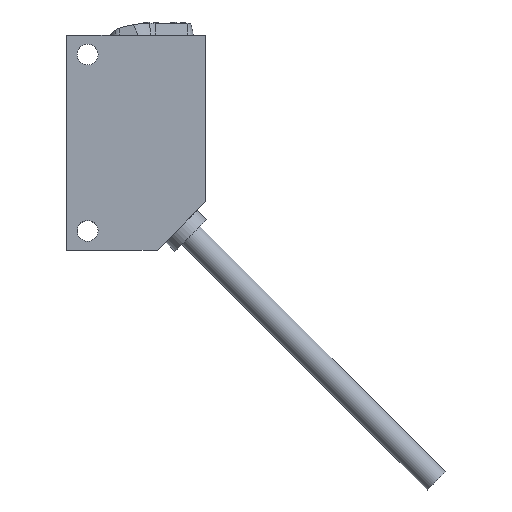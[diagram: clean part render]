
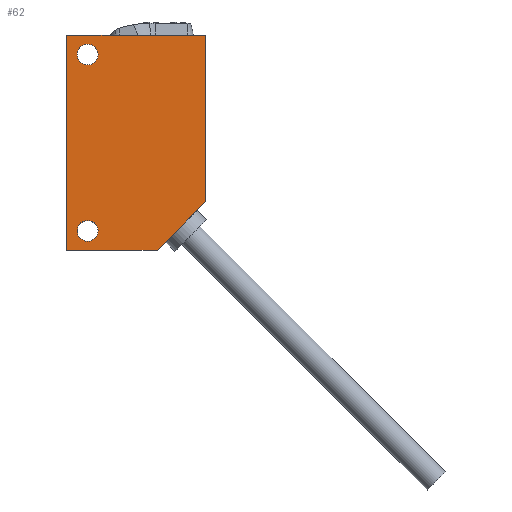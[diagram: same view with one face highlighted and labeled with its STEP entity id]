
A CAD part, top view. The second image highlights one B-rep face of the part: STEP entity #62.
In plain terms, the highlighted planar face has unit normal (0, 0, 1).
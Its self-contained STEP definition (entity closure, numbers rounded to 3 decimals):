
#41 = ORIENTED_EDGE ( 'NONE', *, *, #42, .F. ) ;
#42 = EDGE_CURVE ( 'NONE', #479, #619, #802, .T. ) ;
#54 = EDGE_LOOP ( 'NONE', ( #130, #142 ) ) ;
#62 = ADVANCED_FACE ( 'NONE', ( #828, #827, #826 ), #825, .T. ) ;
#63 = EDGE_CURVE ( 'NONE', #553, #550, #923, .T. ) ;
#71 = EDGE_CURVE ( 'NONE', #539, #467, #872, .T. ) ;
#102 = ORIENTED_EDGE ( 'NONE', *, *, #644, .T. ) ;
#103 = ORIENTED_EDGE ( 'NONE', *, *, #495, .T. ) ;
#106 = ORIENTED_EDGE ( 'NONE', *, *, #478, .F. ) ;
#107 = EDGE_LOOP ( 'NONE', ( #108, #110, #111, #102, #103 ) ) ;
#108 = ORIENTED_EDGE ( 'NONE', *, *, #71, .T. ) ;
#110 = ORIENTED_EDGE ( 'NONE', *, *, #540, .T. ) ;
#111 = ORIENTED_EDGE ( 'NONE', *, *, #129, .T. ) ;
#129 = EDGE_CURVE ( 'NONE', #557, #451, #1090, .T. ) ;
#130 = ORIENTED_EDGE ( 'NONE', *, *, #63, .F. ) ;
#142 = ORIENTED_EDGE ( 'NONE', *, *, #552, .F. ) ;
#143 = EDGE_LOOP ( 'NONE', ( #41, #106 ) ) ;
#451 = VERTEX_POINT ( 'NONE', #1321 ) ;
#467 = VERTEX_POINT ( 'NONE', #1339 ) ;
#478 = EDGE_CURVE ( 'NONE', #619, #479, #1443, .T. ) ;
#479 = VERTEX_POINT ( 'NONE', #1438 ) ;
#495 = EDGE_CURVE ( 'NONE', #576, #539, #1596, .T. ) ;
#539 = VERTEX_POINT ( 'NONE', #1630 ) ;
#540 = EDGE_CURVE ( 'NONE', #467, #557, #1533, .T. ) ;
#550 = VERTEX_POINT ( 'NONE', #1557 ) ;
#552 = EDGE_CURVE ( 'NONE', #550, #553, #1556, .T. ) ;
#553 = VERTEX_POINT ( 'NONE', #1551 ) ;
#557 = VERTEX_POINT ( 'NONE', #1524 ) ;
#576 = VERTEX_POINT ( 'NONE', #1666 ) ;
#619 = VERTEX_POINT ( 'NONE', #1734 ) ;
#644 = EDGE_CURVE ( 'NONE', #451, #576, #1806, .T. ) ;
#798 = DIRECTION ( 'NONE',  ( 1., 0., 0. ) ) ;
#799 = DIRECTION ( 'NONE',  ( 0., 0., 1. ) ) ;
#800 = CARTESIAN_POINT ( 'NONE',  ( 3., -2.8, 5.6 ) ) ;
#801 = AXIS2_PLACEMENT_3D ( 'NONE', #800, #799, #798 ) ;
#802 = CIRCLE ( 'NONE', #801, 1.5 ) ;
#825 = PLANE ( 'NONE',  #927 ) ;
#826 = FACE_OUTER_BOUND ( 'NONE', #107, .T. ) ;
#827 = FACE_BOUND ( 'NONE', #143, .T. ) ;
#828 = FACE_BOUND ( 'NONE', #54, .T. ) ;
#869 = DIRECTION ( 'NONE',  ( 1., 0., 0. ) ) ;
#870 = VECTOR ( 'NONE', #869, 1000. ) ;
#871 = CARTESIAN_POINT ( 'NONE',  ( 0., -31., 5.6 ) ) ;
#872 = LINE ( 'NONE', #871, #870 ) ;
#896 = DIRECTION ( 'NONE',  ( 1., 0., 0. ) ) ;
#897 = DIRECTION ( 'NONE',  ( 0., 0., 1. ) ) ;
#922 = AXIS2_PLACEMENT_3D ( 'NONE', #928, #897, #896 ) ;
#923 = CIRCLE ( 'NONE', #922, 1.5 ) ;
#924 = DIRECTION ( 'NONE',  ( 1., 0., 0. ) ) ;
#925 = DIRECTION ( 'NONE',  ( 0., 0., 1. ) ) ;
#926 = CARTESIAN_POINT ( 'NONE',  ( 0., -31., 5.6 ) ) ;
#927 = AXIS2_PLACEMENT_3D ( 'NONE', #926, #925, #924 ) ;
#928 = CARTESIAN_POINT ( 'NONE',  ( 3., -28.2, 5.6 ) ) ;
#1049 = CARTESIAN_POINT ( 'NONE',  ( 20., 0., 5.6 ) ) ;
#1090 = LINE ( 'NONE', #1049, #1093 ) ;
#1093 = VECTOR ( 'NONE', #1104, 1000. ) ;
#1104 = DIRECTION ( 'NONE',  ( 0., 1., 0. ) ) ;
#1321 = CARTESIAN_POINT ( 'NONE',  ( 20., 0., 5.6 ) ) ;
#1339 = CARTESIAN_POINT ( 'NONE',  ( 13., -31., 5.6 ) ) ;
#1438 = CARTESIAN_POINT ( 'NONE',  ( 4.5, -2.8, 5.6 ) ) ;
#1439 = DIRECTION ( 'NONE',  ( 1., 0., 0. ) ) ;
#1440 = DIRECTION ( 'NONE',  ( 0., 0., 1. ) ) ;
#1441 = CARTESIAN_POINT ( 'NONE',  ( 3., -2.8, 5.6 ) ) ;
#1442 = AXIS2_PLACEMENT_3D ( 'NONE', #1441, #1440, #1439 ) ;
#1443 = CIRCLE ( 'NONE', #1442, 1.5 ) ;
#1524 = CARTESIAN_POINT ( 'NONE',  ( 20., -24., 5.6 ) ) ;
#1530 = DIRECTION ( 'NONE',  ( 0.707, 0.707, 0. ) ) ;
#1531 = VECTOR ( 'NONE', #1530, 1000. ) ;
#1532 = CARTESIAN_POINT ( 'NONE',  ( 6.5, -37.5, 5.6 ) ) ;
#1533 = LINE ( 'NONE', #1532, #1531 ) ;
#1551 = CARTESIAN_POINT ( 'NONE',  ( 4.5, -28.2, 5.6 ) ) ;
#1552 = DIRECTION ( 'NONE',  ( 1., 0., 0. ) ) ;
#1553 = DIRECTION ( 'NONE',  ( 0., 0., 1. ) ) ;
#1554 = CARTESIAN_POINT ( 'NONE',  ( 3., -28.2, 5.6 ) ) ;
#1555 = AXIS2_PLACEMENT_3D ( 'NONE', #1554, #1553, #1552 ) ;
#1556 = CIRCLE ( 'NONE', #1555, 1.5 ) ;
#1557 = CARTESIAN_POINT ( 'NONE',  ( 1.5, -28.2, 5.6 ) ) ;
#1564 = DIRECTION ( 'NONE',  ( 0., -1., 0. ) ) ;
#1567 = CARTESIAN_POINT ( 'NONE',  ( 0., 0., 5.6 ) ) ;
#1587 = VECTOR ( 'NONE', #1564, 1000. ) ;
#1596 = LINE ( 'NONE', #1567, #1587 ) ;
#1630 = CARTESIAN_POINT ( 'NONE',  ( 0., -31., 5.6 ) ) ;
#1666 = CARTESIAN_POINT ( 'NONE',  ( 0., 0., 5.6 ) ) ;
#1734 = CARTESIAN_POINT ( 'NONE',  ( 1.5, -2.8, 5.6 ) ) ;
#1803 = DIRECTION ( 'NONE',  ( -1., 0., 0. ) ) ;
#1804 = VECTOR ( 'NONE', #1803, 1000. ) ;
#1805 = CARTESIAN_POINT ( 'NONE',  ( 0., 0., 5.6 ) ) ;
#1806 = LINE ( 'NONE', #1805, #1804 ) ;
